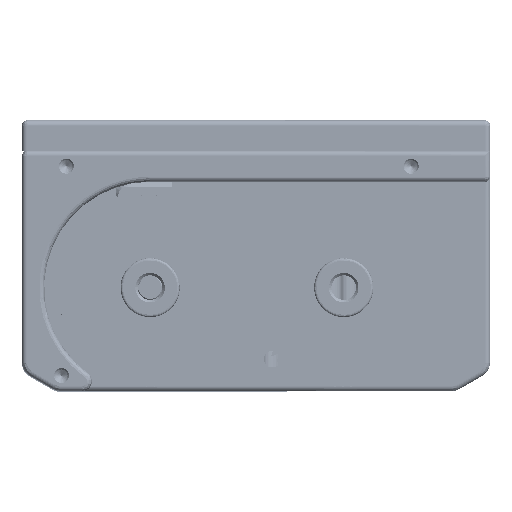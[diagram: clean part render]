
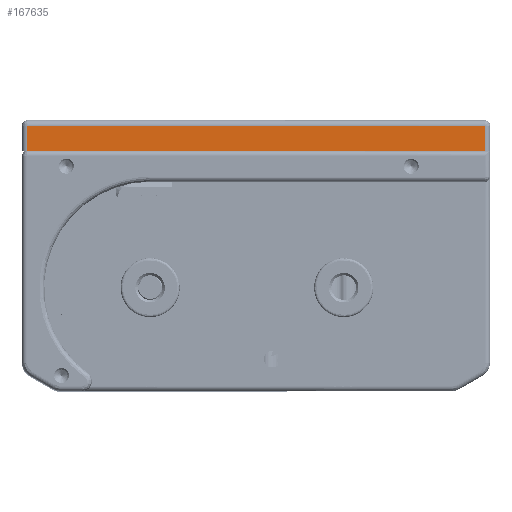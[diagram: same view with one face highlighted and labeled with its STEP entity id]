
A CAD part, front view. The second image highlights one B-rep face of the part: STEP entity #167635.
In plain terms, the highlighted planar face has unit normal (0, -1, 0).
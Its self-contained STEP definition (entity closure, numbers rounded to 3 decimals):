
#3184 = VECTOR ( 'NONE', #8479, 1000. ) ;
#4779 = EDGE_CURVE ( 'NONE', #63674, #88337, #166893, .T. ) ;
#6007 = CARTESIAN_POINT ( 'NONE',  ( 68., -17.5, 33.4 ) ) ;
#8479 = DIRECTION ( 'NONE',  ( 0., 0., 1. ) ) ;
#8659 = VECTOR ( 'NONE', #15216, 1000. ) ;
#11212 = VECTOR ( 'NONE', #152604, 1000. ) ;
#14630 = CARTESIAN_POINT ( 'NONE',  ( -26., -17.5, 27.8 ) ) ;
#15216 = DIRECTION ( 'NONE',  ( -1., 0., 0. ) ) ;
#15498 = VECTOR ( 'NONE', #95836, 1000. ) ;
#17661 = CARTESIAN_POINT ( 'NONE',  ( 67.693, -17.5, 32.9 ) ) ;
#19854 = ORIENTED_EDGE ( 'NONE', *, *, #66040, .F. ) ;
#25177 = ORIENTED_EDGE ( 'NONE', *, *, #4779, .F. ) ;
#31278 = CARTESIAN_POINT ( 'NONE',  ( 67.693, -17.5, 32.9 ) ) ;
#37842 = VERTEX_POINT ( 'NONE', #43428 ) ;
#43428 = CARTESIAN_POINT ( 'NONE',  ( -24.693, -17.5, 32.9 ) ) ;
#44900 = EDGE_CURVE ( 'NONE', #88337, #186768, #112137, .T. ) ;
#52474 = DIRECTION ( 'NONE',  ( 0., 1., 0. ) ) ;
#57132 = EDGE_CURVE ( 'NONE', #186768, #37842, #190041, .T. ) ;
#63674 = VERTEX_POINT ( 'NONE', #66070 ) ;
#65110 = EDGE_LOOP ( 'NONE', ( #19854, #206909, #137995, #25177, #207833, #179914 ) ) ;
#66040 = EDGE_CURVE ( 'NONE', #37842, #171996, #105911, .T. ) ;
#66070 = CARTESIAN_POINT ( 'NONE',  ( 68., -17.5, 27.8 ) ) ;
#68472 = CARTESIAN_POINT ( 'NONE',  ( -24.9, -17.5, 32.9 ) ) ;
#71191 = CARTESIAN_POINT ( 'NONE',  ( -26., -17.5, 34. ) ) ;
#75912 = CARTESIAN_POINT ( 'NONE',  ( -25., -17.5, 34. ) ) ;
#88337 = VERTEX_POINT ( 'NONE', #215240 ) ;
#95836 = DIRECTION ( 'NONE',  ( 0., 0., 1. ) ) ;
#99133 = VERTEX_POINT ( 'NONE', #189493 ) ;
#105911 = LINE ( 'NONE', #68472, #196909 ) ;
#112137 = LINE ( 'NONE', #75912, #15498 ) ;
#112324 = FACE_OUTER_BOUND ( 'NONE', #65110, .T. ) ;
#123327 = LINE ( 'NONE', #6007, #3184 ) ;
#123513 = CARTESIAN_POINT ( 'NONE',  ( -25., -17.5, 32.9 ) ) ;
#137995 = ORIENTED_EDGE ( 'NONE', *, *, #44900, .F. ) ;
#152604 = DIRECTION ( 'NONE',  ( 1., 0., 0. ) ) ;
#157186 = AXIS2_PLACEMENT_3D ( 'NONE', #71191, #52474, #204687 ) ;
#166893 = LINE ( 'NONE', #14630, #187883 ) ;
#167635 = ADVANCED_FACE ( 'NONE', ( #112324 ), #188443, .F. ) ;
#171996 = VERTEX_POINT ( 'NONE', #31278 ) ;
#174104 = EDGE_CURVE ( 'NONE', #63674, #99133, #123327, .T. ) ;
#179914 = ORIENTED_EDGE ( 'NONE', *, *, #207773, .T. ) ;
#186768 = VERTEX_POINT ( 'NONE', #123513 ) ;
#186842 = DIRECTION ( 'NONE',  ( -1., 0., 0. ) ) ;
#187422 = LINE ( 'NONE', #17661, #8659 ) ;
#187883 = VECTOR ( 'NONE', #186842, 1000. ) ;
#188443 = PLANE ( 'NONE',  #157186 ) ;
#189493 = CARTESIAN_POINT ( 'NONE',  ( 68., -17.5, 32.9 ) ) ;
#190041 = LINE ( 'NONE', #243788, #11212 ) ;
#196909 = VECTOR ( 'NONE', #201973, 1000. ) ;
#201973 = DIRECTION ( 'NONE',  ( 1., 0., 0. ) ) ;
#204687 = DIRECTION ( 'NONE',  ( 0., 0., 1. ) ) ;
#206909 = ORIENTED_EDGE ( 'NONE', *, *, #57132, .F. ) ;
#207773 = EDGE_CURVE ( 'NONE', #99133, #171996, #187422, .T. ) ;
#207833 = ORIENTED_EDGE ( 'NONE', *, *, #174104, .T. ) ;
#215240 = CARTESIAN_POINT ( 'NONE',  ( -25., -17.5, 27.8 ) ) ;
#243788 = CARTESIAN_POINT ( 'NONE',  ( -24.847, -17.5, 32.9 ) ) ;
